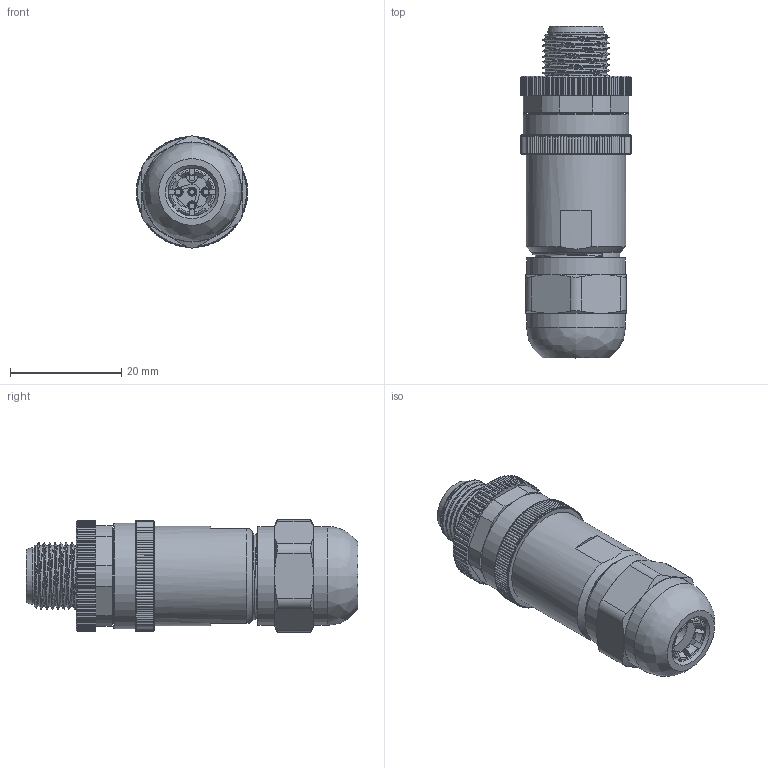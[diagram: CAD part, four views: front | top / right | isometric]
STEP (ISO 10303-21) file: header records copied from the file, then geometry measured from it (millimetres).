
FILE_DESCRIPTION(/* description */ (''),/* implementation_level */ '2;1');
FILE_NAME(/* name */ 'M12-5MS.P-PG7_stp.stp',/* time_stamp */ '2024-09-03T16:04:30+08:00',/* author */ (''),/* organization */ (''),/* preprocessor_version */ 'ST-DEVELOPER v16.7',/* originating_system */ 'SIEMENS PLM Software NX 12.0',/* authorisation */ '');
FILE_SCHEMA (('AP203_CONFIGURATION_CONTROLLED_3D_DESIGN_OF_MECHANICAL_PARTS_AND_ASSEMBLIES_MIM_LF { 1 0 10303 403 2 1 2}'));
Products named in the file (1): lyj5A1C9B8E86n0
Bounding box: 20 x 59.7 x 20.16 mm (x, y, z)
Surface area: 13055 mm2
Topology: 13 solids, 14 shells, 1337 faces, 3200 edges, 1930 vertices
Faces by surface type: cylinder 544, plane 363, cone 360, extrusion 25, bspline 23, torus 17, sphere 5
Full cylindrical faces by diameter (mm): 1 x15, 1.2 x10, 1.4 x5, 1.5 x15, 2 x4, 2.2 x1, 6.2 x1, 8.3 x1, 8.5 x1, 8.6 x2, 9.4 x1, 9.5 x1, 9.7 x1, 10 x1, 10.2 x1, 10.8 x1, 11.3 x2, 11.6 x1, 12.1 x1, 12.7 x1, 13.2 x3, 13.4 x1, 13.8 x1, 13.9 x1, 14.4 x1, 14.8 x12, 15.8 x4, 16.2 x1, 16.4 x1, 16.7 x1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
Entity records: 56718 total; most frequent: CARTESIAN_POINT 27705, DIRECTION 6017, ORIENTED_EDGE 5888, EDGE_CURVE 2944, AXIS2_PLACEMENT_3D 2451, VERTEX_POINT 1817, EDGE_LOOP 1525, ADVANCED_FACE 1316
